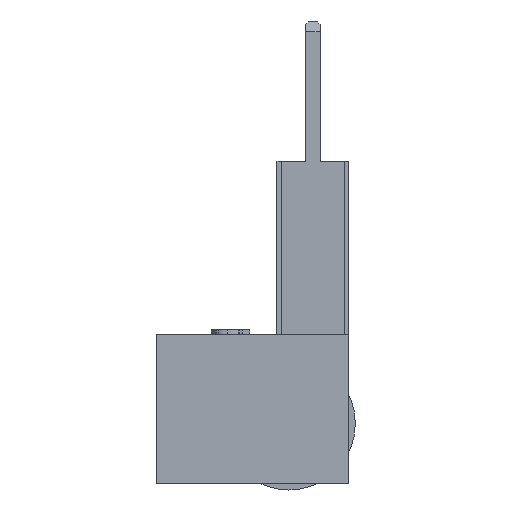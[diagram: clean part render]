
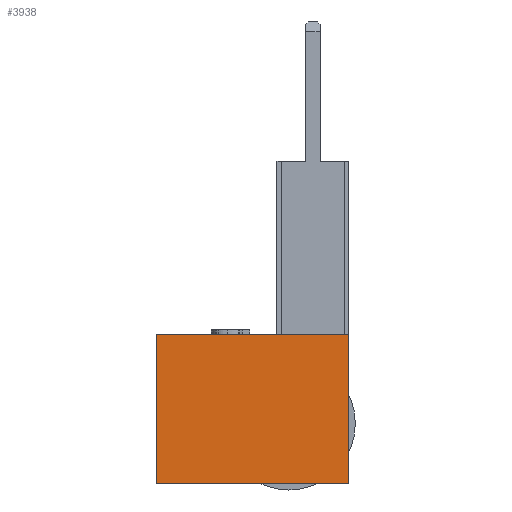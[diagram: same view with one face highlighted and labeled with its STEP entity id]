
A CAD part, left-side view. The second image highlights one B-rep face of the part: STEP entity #3938.
In plain terms, the highlighted planar face has unit normal (-1, 0, 0).
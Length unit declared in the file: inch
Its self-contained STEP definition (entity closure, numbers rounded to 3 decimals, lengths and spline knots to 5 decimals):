
#265=PLANE('',#4125);
#474=FACE_OUTER_BOUND('',#699,.T.);
#699=EDGE_LOOP('',(#3628,#3629,#3630,#3631));
#957=LINE('',#6513,#1353);
#1098=LINE('',#6856,#1494);
#1099=LINE('',#6858,#1495);
#1100=LINE('',#6859,#1496);
#1353=VECTOR('',#4515,0.3937);
#1494=VECTOR('',#4850,0.3937);
#1495=VECTOR('',#4851,0.3937);
#1496=VECTOR('',#4852,0.3937);
#1893=VERTEX_POINT('',#6510);
#1894=VERTEX_POINT('',#6512);
#1999=VERTEX_POINT('',#6855);
#2000=VERTEX_POINT('',#6857);
#2385=EDGE_CURVE('',#1894,#1893,#957,.T.);
#2551=EDGE_CURVE('',#1999,#1894,#1098,.T.);
#2552=EDGE_CURVE('',#2000,#1893,#1099,.T.);
#2553=EDGE_CURVE('',#1999,#2000,#1100,.T.);
#3628=ORIENTED_EDGE('',*,*,#2551,.T.);
#3629=ORIENTED_EDGE('',*,*,#2385,.T.);
#3630=ORIENTED_EDGE('',*,*,#2552,.F.);
#3631=ORIENTED_EDGE('',*,*,#2553,.F.);
#3938=ADVANCED_FACE('',(#474),#265,.T.);
#4125=AXIS2_PLACEMENT_3D('',#6854,#4848,#4849);
#4515=DIRECTION('',(0.,1.,0.));
#4848=DIRECTION('center_axis',(-1.,0.,0.));
#4849=DIRECTION('ref_axis',(0.,0.,1.));
#4850=DIRECTION('',(0.,0.,1.));
#4851=DIRECTION('',(0.,0.,1.));
#4852=DIRECTION('',(0.,1.,0.));
#6510=CARTESIAN_POINT('',(0.,0.4,0.));
#6512=CARTESIAN_POINT('',(0.,0.,0.));
#6513=CARTESIAN_POINT('',(0.,0.,0.));
#6854=CARTESIAN_POINT('Origin',(0.,0.,-0.31));
#6855=CARTESIAN_POINT('',(0.,0.,-0.31));
#6856=CARTESIAN_POINT('',(0.,0.,-0.31));
#6857=CARTESIAN_POINT('',(0.,0.4,-0.31));
#6858=CARTESIAN_POINT('',(0.,0.4,-0.31));
#6859=CARTESIAN_POINT('',(0.,0.,-0.31));
